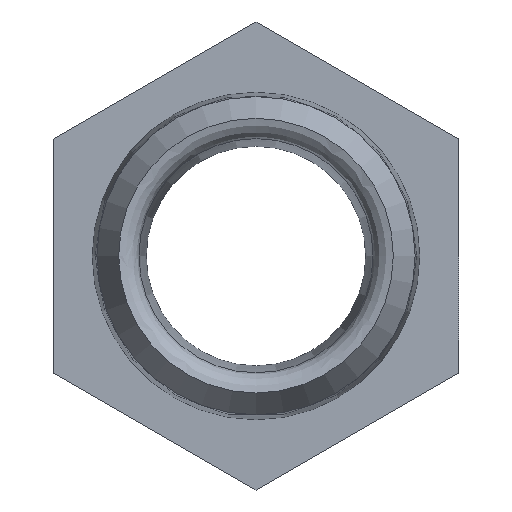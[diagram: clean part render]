
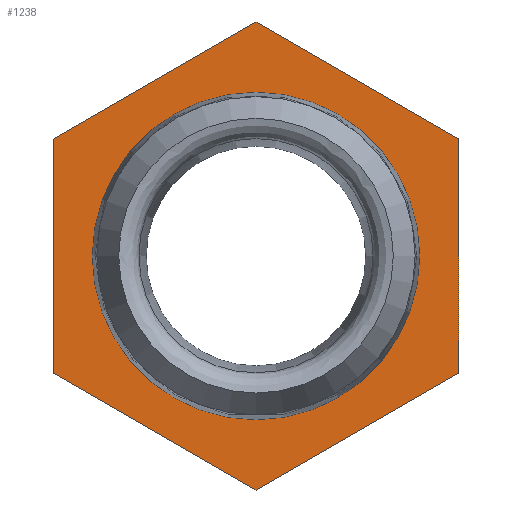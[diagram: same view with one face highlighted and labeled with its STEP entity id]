
A CAD part, top view. The second image highlights one B-rep face of the part: STEP entity #1238.
In plain terms, the highlighted planar face has unit normal (0, 0, 1).
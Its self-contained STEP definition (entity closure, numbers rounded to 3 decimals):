
#783=CARTESIAN_POINT('',(27.52,-15.889,13.));
#784=VERTEX_POINT('',#783);
#785=CARTESIAN_POINT('',(0.,-31.778,13.));
#786=VERTEX_POINT('',#785);
#787=CARTESIAN_POINT('',(27.52,-15.889,13.));
#788=DIRECTION('',(-0.866,-0.5,0.0));
#789=VECTOR('',#788,31.778);
#790=LINE('',#787,#789);
#791=EDGE_CURVE('',#784,#786,#790,.T.);
#1037=CARTESIAN_POINT('',(22.235,0.,13.));
#1038=VERTEX_POINT('',#1037);
#1039=CARTESIAN_POINT('',(0.,0.,13.));
#1040=DIRECTION('',(0.0,0.0,-1.0));
#1041=DIRECTION('',(-1.0,0.0,0.0));
#1042=AXIS2_PLACEMENT_3D('',#1039,#1040,#1041);
#1043=CIRCLE('',#1042,22.235);
#1044=EDGE_CURVE('',#1038,#1038,#1043,.T.);
#1057=CARTESIAN_POINT('',(-27.52,-15.889,13.));
#1058=VERTEX_POINT('',#1057);
#1059=CARTESIAN_POINT('',(0.,-31.778,13.));
#1060=DIRECTION('',(-0.866,0.5,0.0));
#1061=VECTOR('',#1060,31.778);
#1062=LINE('',#1059,#1061);
#1063=EDGE_CURVE('',#786,#1058,#1062,.T.);
#1088=CARTESIAN_POINT('',(-27.52,15.889,13.));
#1089=VERTEX_POINT('',#1088);
#1090=CARTESIAN_POINT('',(-27.52,-15.889,13.));
#1091=DIRECTION('',(0.0,1.0,0.0));
#1092=VECTOR('',#1091,31.778);
#1093=LINE('',#1090,#1092);
#1094=EDGE_CURVE('',#1058,#1089,#1093,.T.);
#1119=CARTESIAN_POINT('',(0.,31.778,13.));
#1120=VERTEX_POINT('',#1119);
#1121=CARTESIAN_POINT('',(-27.52,15.889,13.));
#1122=DIRECTION('',(0.866,0.5,0.0));
#1123=VECTOR('',#1122,31.778);
#1124=LINE('',#1121,#1123);
#1125=EDGE_CURVE('',#1089,#1120,#1124,.T.);
#1150=CARTESIAN_POINT('',(27.52,15.889,13.));
#1151=VERTEX_POINT('',#1150);
#1152=CARTESIAN_POINT('',(0.,31.778,13.));
#1153=DIRECTION('',(0.866,-0.5,0.0));
#1154=VECTOR('',#1153,31.778);
#1155=LINE('',#1152,#1154);
#1156=EDGE_CURVE('',#1120,#1151,#1155,.T.);
#1181=CARTESIAN_POINT('',(27.52,15.889,13.));
#1182=DIRECTION('',(0.0,-1.0,0.0));
#1183=VECTOR('',#1182,31.778);
#1184=LINE('',#1181,#1183);
#1185=EDGE_CURVE('',#1151,#784,#1184,.T.);
#1222=CARTESIAN_POINT('',(0.,0.,13.));
#1223=DIRECTION('',(0.0,0.0,1.0));
#1224=DIRECTION('',(1.0,0.0,0.0));
#1225=AXIS2_PLACEMENT_3D('',#1222,#1223,#1224);
#1226=PLANE('',#1225);
#1227=ORIENTED_EDGE('',*,*,#1063,.F.);
#1228=ORIENTED_EDGE('',*,*,#791,.F.);
#1229=ORIENTED_EDGE('',*,*,#1185,.F.);
#1230=ORIENTED_EDGE('',*,*,#1156,.F.);
#1231=ORIENTED_EDGE('',*,*,#1125,.F.);
#1232=ORIENTED_EDGE('',*,*,#1094,.F.);
#1233=EDGE_LOOP('',(#1227,#1228,#1229,#1230,#1231,#1232));
#1234=FACE_OUTER_BOUND('',#1233,.T.);
#1235=ORIENTED_EDGE('',*,*,#1044,.T.);
#1236=EDGE_LOOP('',(#1235));
#1237=FACE_BOUND('',#1236,.T.);
#1238=ADVANCED_FACE('',(#1234,#1237),#1226,.T.);
